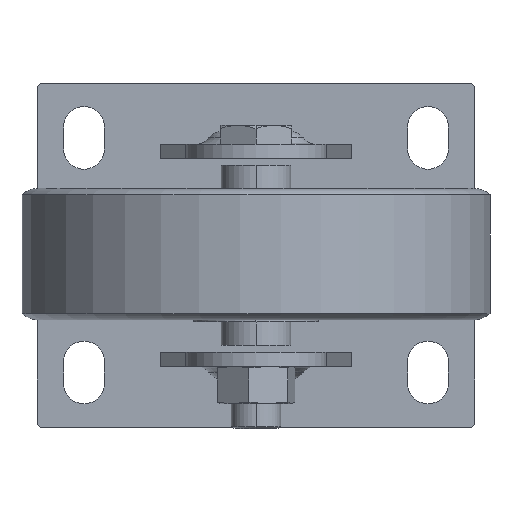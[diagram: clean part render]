
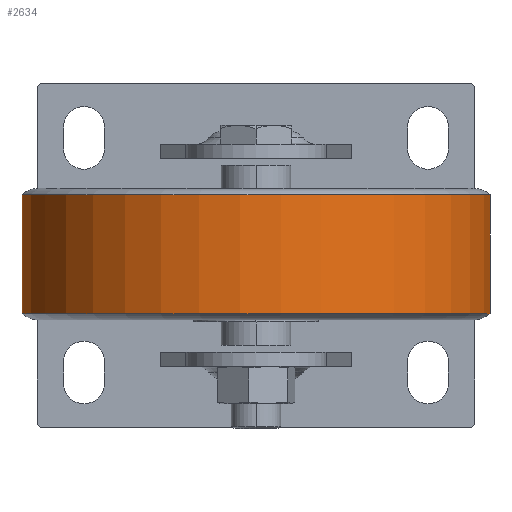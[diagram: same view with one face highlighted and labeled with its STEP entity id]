
A CAD part, front view. The second image highlights one B-rep face of the part: STEP entity #2634.
In plain terms, the highlighted cylindrical face has radius 75 mm (diameter 150 mm), a partial arc.
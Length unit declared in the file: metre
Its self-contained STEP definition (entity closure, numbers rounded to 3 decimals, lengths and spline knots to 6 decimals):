
#257 = DIRECTION ( 'NONE',  ( 0.998, -0.069, 0. ) ) ;
#977 = ORIENTED_EDGE ( 'NONE', *, *, #17901, .T. ) ;
#1050 = LINE ( 'NONE', #17634, #2846 ) ;
#1215 = ORIENTED_EDGE ( 'NONE', *, *, #10955, .T. ) ;
#2634 = ADVANCED_FACE ( 'NONE', ( #11090 ), #11377, .T. ) ;
#2846 = VECTOR ( 'NONE', #4995, 1. ) ;
#3053 = VERTEX_POINT ( 'NONE', #16803 ) ;
#3109 = LINE ( 'NONE', #12980, #4284 ) ;
#4131 = ORIENTED_EDGE ( 'NONE', *, *, #7989, .F. ) ;
#4284 = VECTOR ( 'NONE', #11618, 1. ) ;
#4397 = DIRECTION ( 'NONE',  ( 0.998, -0.069, 0. ) ) ;
#4995 = DIRECTION ( 'NONE',  ( 0., 0., 1. ) ) ;
#5188 = AXIS2_PLACEMENT_3D ( 'NONE', #12732, #5606, #257 ) ;
#5418 = EDGE_LOOP ( 'NONE', ( #12234, #977, #1215, #4131 ) ) ;
#5606 = DIRECTION ( 'NONE',  ( 0., 0., 1. ) ) ;
#7234 = DIRECTION ( 'NONE',  ( 0., 0., 1. ) ) ;
#7359 = CARTESIAN_POINT ( 'NONE',  ( 0.074822, -0.11517, -0.018655 ) ) ;
#7989 = EDGE_CURVE ( 'NONE', #11265, #17051, #8526, .T. ) ;
#8526 = CIRCLE ( 'NONE', #15891, 0.075 ) ;
#8632 = CARTESIAN_POINT ( 'NONE',  ( 0., -0.11, 0.019345 ) ) ;
#9480 = CIRCLE ( 'NONE', #10961, 0.075 ) ;
#9710 = VERTEX_POINT ( 'NONE', #7359 ) ;
#10955 = EDGE_CURVE ( 'NONE', #9710, #17051, #3109, .T. ) ;
#10961 = AXIS2_PLACEMENT_3D ( 'NONE', #17388, #11626, #4397 ) ;
#11090 = FACE_OUTER_BOUND ( 'NONE', #5418, .T. ) ;
#11265 = VERTEX_POINT ( 'NONE', #14971 ) ;
#11377 = CYLINDRICAL_SURFACE ( 'NONE', #5188, 0.075 ) ;
#11618 = DIRECTION ( 'NONE',  ( 0., 0., 1. ) ) ;
#11626 = DIRECTION ( 'NONE',  ( 0., 0., 1. ) ) ;
#12234 = ORIENTED_EDGE ( 'NONE', *, *, #12892, .F. ) ;
#12732 = CARTESIAN_POINT ( 'NONE',  ( 0., -0.11, 0.021345 ) ) ;
#12892 = EDGE_CURVE ( 'NONE', #3053, #11265, #1050, .T. ) ;
#12980 = CARTESIAN_POINT ( 'NONE',  ( 0.074822, -0.11517, 0.021345 ) ) ;
#14971 = CARTESIAN_POINT ( 'NONE',  ( -0.074822, -0.10483, 0.019345 ) ) ;
#15722 = DIRECTION ( 'NONE',  ( 0.998, -0.069, 0. ) ) ;
#15891 = AXIS2_PLACEMENT_3D ( 'NONE', #8632, #7234, #15722 ) ;
#16803 = CARTESIAN_POINT ( 'NONE',  ( -0.074822, -0.10483, -0.018655 ) ) ;
#16992 = CARTESIAN_POINT ( 'NONE',  ( 0.074822, -0.11517, 0.019345 ) ) ;
#17051 = VERTEX_POINT ( 'NONE', #16992 ) ;
#17388 = CARTESIAN_POINT ( 'NONE',  ( 0., -0.11, -0.018655 ) ) ;
#17634 = CARTESIAN_POINT ( 'NONE',  ( -0.074822, -0.10483, 0.021345 ) ) ;
#17901 = EDGE_CURVE ( 'NONE', #3053, #9710, #9480, .T. ) ;
